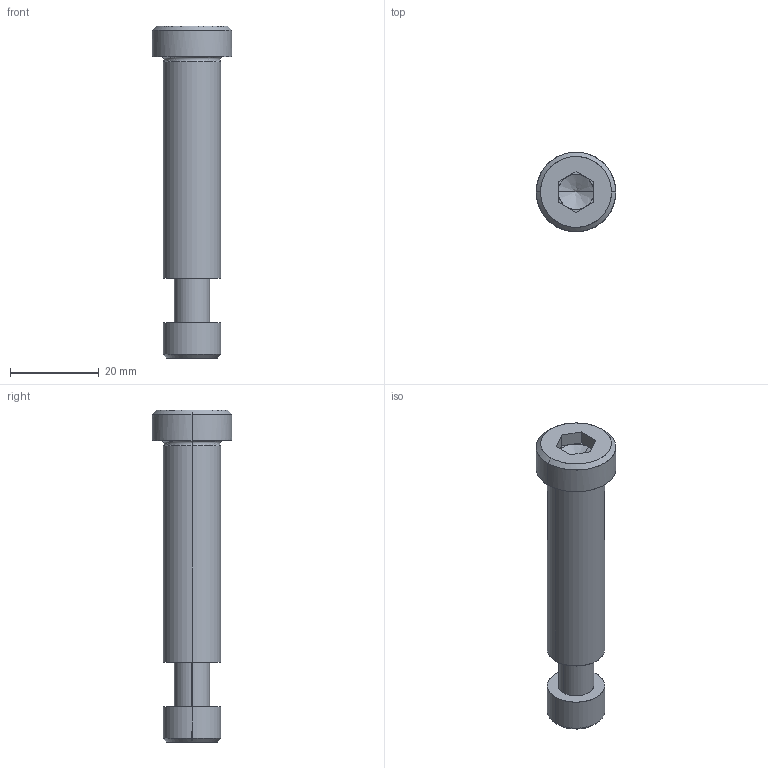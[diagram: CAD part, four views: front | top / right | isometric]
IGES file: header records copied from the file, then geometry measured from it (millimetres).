
Global section: file name: E:\UnigraphicsGraphicData\MISUMI_PRESS-PARTS\IGES\3d_sbtc13-50_05112_r00.igs; native system: NX V5.0; preprocessor: UGS NX IGES V5.0; author: MISUMI; date: 20110105.162445; units: millimetre
Bounding box: 18 x 18 x 75 mm (x, y, z)
Surface area: 4701.2 mm2 (no closed solid volume)
Topology: 0 solids, 0 shells, 52 faces, 286 edges, 282 vertices
Faces by surface type: bspline 52
